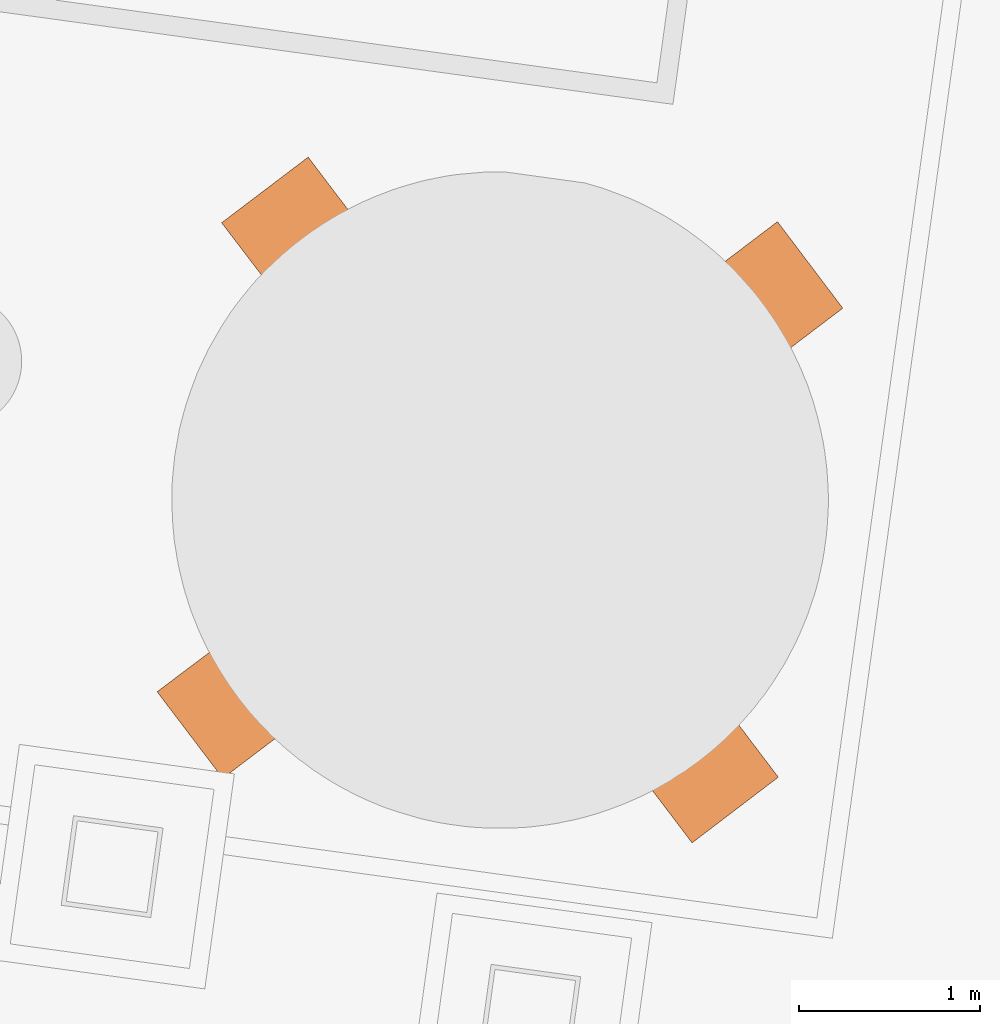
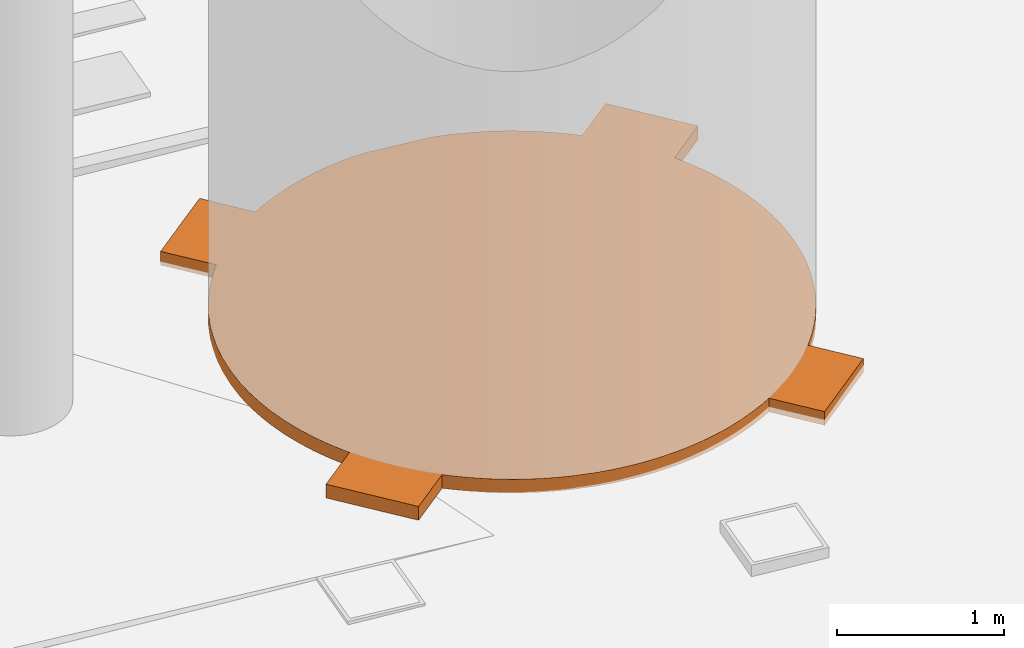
# Not in any storey, part 70 of 75: 1 proxy.
"""IFC4 model written with IfcOpenShell, lengths in metres."""

from ifc_helpers import new_model, si_unit, direction, origin, origin_with_axes, place, context, subcontext, project, spatial, triangles, element, save


model = new_model("IFC4")

# Units and contexts
model_context = context("Model", 3, precision=1e-05, world=origin_with_axes(), true_north=direction((0.0, 1.0)))
body_context = subcontext(model_context, "Body", "Model", "MODEL_VIEW")
ifc_project = project(units=[si_unit("AREAUNIT", "SQUARE_METRE"), si_unit("VOLUMEUNIT", "CUBIC_METRE"), si_unit("LENGTHUNIT", "METRE")], contexts=[model_context])

# Site
site_placement = place(None, origin_with_axes())
site = spatial("IfcSite", under=ifc_project, at=site_placement, Name="Parcela industrial Jinhong")

# Proxy
proxy_placement = place(None, origin())
element("IfcBuildingElementProxy", 1, at=proxy_placement, inside=site, Name="Plano fuente conservado · Adsorbedor PPU-B / MS1201", context=body_context, shape_type="Tessellation", body=[
    triangles([(55.635616, 57.20469, 1.2), (55.561628, 57.145458, 1.2), (55.597869, 57.176068, 1.2), (55.597869, 57.176068, 1.3), (55.561628, 57.145458, 1.3), (55.635616, 57.20469, 1.3), (55.712617, 57.259948, 1.2), (55.712617, 57.259948, 1.3), (55.673364, 57.233313, 1.2), (55.673364, 57.233313, 1.3), (55.490653, 57.082253, 1.2), (55.490653, 57.082253, 1.3), (55.792631, 57.311233, 1.2), (55.792631, 57.311233, 1.3), (55.751871, 57.286584, 1.2), (55.751871, 57.286584, 1.3), (55.875658, 57.358545, 1.2), (55.833392, 57.335882, 1.2), (55.833392, 57.335882, 1.3), (55.875658, 57.358545, 1.3), (56.600351, 57.568558, 1.2), (56.600351, 57.568558, 1.3), (56.092057, 57.456923, 1.2), (56.092057, 57.456923, 1.3), (56.003484, 57.421052, 1.2), (56.003484, 57.421052, 1.3), (55.917925, 57.381207, 1.2), (55.917925, 57.381207, 1.3), (55.959951, 57.402123, 1.2), (55.959951, 57.402123, 1.3), (56.047017, 57.439981, 1.2), (56.047017, 57.439981, 1.3), (56.181896, 57.489061, 1.2), (56.13535, 57.474106, 1.2), (56.13535, 57.474106, 1.3), (56.181896, 57.489061, 1.3), (56.226455, 57.502511, 1.2), (56.226455, 57.502511, 1.3), (56.551753, 57.564562, 1.2), (56.551753, 57.564562, 1.3), (56.364652, 57.536898, 1.2), (56.364652, 57.536898, 1.3), (56.272761, 57.51572, 1.2), (56.272761, 57.51572, 1.3), (56.318826, 57.527182, 1.2), (56.318826, 57.527182, 1.3), (56.412224, 57.546374, 1.2), (56.412224, 57.546374, 1.3), (56.504901, 57.560326, 1.2), (56.504901, 57.560326, 1.3), (56.457809, 57.554344, 1.2), (56.457809, 57.554344, 1.3), (56.695321, 57.573297, 1.2), (56.647203, 57.572794, 1.2), (56.647203, 57.572794, 1.3), (56.695321, 57.573297, 1.3), (57.21152, 57.509446, 1.2), (56.741692, 57.57404, 1.2), (56.750665, 57.574586, 1.2), (56.750665, 57.574586, 1.3), (56.741692, 57.57404, 1.3), (57.21152, 57.509446, 1.3), (57.203027, 57.512393, 1.2), (57.203027, 57.512393, 1.3), (57.347884, 57.465784, 1.2), (57.257717, 57.495976, 1.2), (57.302168, 57.482746, 1.2), (57.302168, 57.482746, 1.3), (57.257717, 57.495976, 1.3), (57.347884, 57.465784, 1.3), (57.391854, 57.449061, 1.2), (57.391854, 57.449061, 1.3), (55.165928, 56.674883, 1.2), (55.165928, 56.674883, 1.3), (54.919872, 55.674772, 1.2), (54.919872, 55.674772, 1.3), (57.71124, 54.232145, 1.2), (57.71124, 54.232145, 1.3), (58.08704, 56.965533, 1.2), (58.08704, 56.965533, 1.3), (57.807192, 57.221118, 1.2), (57.807192, 57.221118, 1.3), (57.564548, 57.37193, 1.2), (57.564548, 57.37193, 1.3), (57.435825, 57.432338, 1.2), (57.435825, 57.432338, 1.3), (57.479555, 57.413869, 1.2), (57.479555, 57.413869, 1.3), (57.523045, 57.393653, 1.2), (57.523045, 57.393653, 1.3), (57.649061, 57.326499, 1.2), (57.607797, 57.349968, 1.2), (57.607797, 57.349968, 1.3), (57.649061, 57.326499, 1.3), (57.690083, 57.301283, 1.2), (57.690083, 57.301283, 1.3), (57.768396, 57.249586, 1.2), (57.768396, 57.249586, 1.3), (57.72936, 57.276308, 1.2), (57.72936, 57.276308, 1.3), (57.989012, 57.06799, 1.2), (57.989012, 57.06799, 1.3), (57.882798, 57.162674, 1.2), (57.882798, 57.162674, 1.3), (57.845988, 57.192649, 1.2), (57.845988, 57.192649, 1.3), (57.95443, 57.101218, 1.2), (57.919607, 57.132699, 1.2), (57.919607, 57.132699, 1.3), (57.95443, 57.101218, 1.3), (58.056191, 57.000027, 1.2), (58.056191, 57.000027, 1.3), (58.023595, 57.034762, 1.2), (58.023595, 57.034762, 1.3), (58.412172, 56.443903, 1.2), (58.412172, 56.443903, 1.3), (58.374314, 56.530969, 1.2), (58.374314, 56.530969, 1.3), (58.285171, 56.698049, 1.2), (58.285171, 56.698049, 1.3), (58.233886, 56.778063, 1.2), (58.233886, 56.778063, 1.3), (58.178627, 56.855064, 1.2), (58.178627, 56.855064, 1.3), (58.119396, 56.929052, 1.2), (58.119396, 56.929052, 1.3), (58.150005, 56.892811, 1.2), (58.150005, 56.892811, 1.3), (58.20725, 56.817316, 1.2), (58.20725, 56.817316, 1.3), (58.260521, 56.738809, 1.2), (58.260521, 56.738809, 1.3), (58.353638, 56.574742, 1.2), (58.30982, 56.657288, 1.2), (58.30982, 56.657288, 1.3), (58.353638, 56.574742, 1.3), (58.332722, 56.616768, 1.2), (58.332722, 56.616768, 1.3), (58.394989, 56.487196, 1.2), (58.394989, 56.487196, 1.3), (58.446297, 56.35557, 1.2), (58.431101, 56.40037, 1.2), (58.431101, 56.40037, 1.3), (58.446297, 56.35557, 1.3), (58.474702, 56.264465, 1.2), (58.461492, 56.310771, 1.2), (58.461492, 56.310771, 1.3), (58.474702, 56.264465, 1.3), (58.529533, 55.51128, 1.2), (58.529533, 55.51128, 1.3), (58.509089, 56.126269, 1.2), (58.509089, 56.126269, 1.3), (58.487911, 56.21816, 1.2), (58.487911, 56.21816, 1.3), (58.499373, 56.172094, 1.2), (58.499373, 56.172094, 1.3), (58.526534, 56.033111, 1.2), (58.518805, 56.080443, 1.2), (58.518805, 56.080443, 1.3), (58.526534, 56.033111, 1.3), (58.532517, 55.986019, 1.2), (58.532517, 55.986019, 1.3), (58.543744, 55.653472, 1.2), (58.543744, 55.653472, 1.3), (58.544985, 55.843718, 1.2), (58.544985, 55.843718, 1.3), (58.542496, 55.890329, 1.2), (58.542496, 55.890329, 1.3), (58.5385, 55.938927, 1.2), (58.5385, 55.938927, 1.3), (58.547235, 55.79536, 1.2), (58.547235, 55.79536, 1.3), (58.546734, 55.70111, 1.2), (58.546734, 55.70111, 1.3), (58.547978, 55.748988, 1.2), (58.547978, 55.748988, 1.3), (58.540753, 55.605835, 1.2), (58.540753, 55.605835, 1.3), (58.536016, 55.558437, 1.2), (58.536016, 55.558437, 1.3), (57.791494, 54.285177, 1.2), (57.752, 54.256794, 1.2), (57.752, 54.256794, 1.3), (57.791494, 54.285177, 1.3), (57.631466, 54.182607, 1.2), (57.671986, 54.205509, 1.2), (57.671986, 54.205509, 1.3), (57.631466, 54.182607, 1.3), (57.546933, 54.137282, 1.2), (57.588959, 54.158198, 1.2), (57.588959, 54.158198, 1.3), (57.546933, 54.137282, 1.3), (57.461373, 54.097437, 1.2), (57.504906, 54.116366, 1.2), (57.504906, 54.116366, 1.3), (57.461373, 54.097437, 1.3), (57.372801, 54.061566, 1.2), (57.41784, 54.078508, 1.2), (57.41784, 54.078508, 1.3), (57.372801, 54.061566, 1.3), (56.769537, 53.945192, 1.2), (56.769537, 53.945192, 1.3), (57.098459, 53.981831, 1.2), (57.098459, 53.981831, 1.3), (57.238403, 54.015978, 1.2), (57.238403, 54.015978, 1.3), (57.327761, 54.044624, 1.2), (57.327761, 54.044624, 1.3), (57.282962, 54.029428, 1.2), (57.282962, 54.029428, 1.3), (57.192097, 54.002769, 1.2), (57.192097, 54.002769, 1.3), (57.146031, 53.991307, 1.2), (57.146031, 53.991307, 1.3), (57.005302, 53.964386, 1.2), (57.052634, 53.972115, 1.2), (57.052634, 53.972115, 1.3), (57.005302, 53.964386, 1.3), (56.95821, 53.958403, 1.2), (56.95821, 53.958403, 1.3), (56.815908, 53.945935, 1.2), (56.911118, 53.95242, 1.2), (56.911118, 53.95242, 1.3), (56.815908, 53.945935, 1.3), (56.864267, 53.948184, 1.2), (56.864267, 53.948184, 1.3), (56.20714, 54.022513, 1.2), (56.20714, 54.022513, 1.3), (56.721419, 53.944689, 1.2), (56.721419, 53.944689, 1.3), (56.485217, 53.961147, 1.2), (56.485217, 53.961147, 1.3), (56.62741, 53.946936, 1.2), (56.62741, 53.946936, 1.3), (56.673301, 53.944186, 1.2), (56.673301, 53.944186, 1.3), (56.579772, 53.949927, 1.2), (56.579772, 53.949927, 1.3), (56.532375, 53.954664, 1.2), (56.532375, 53.954664, 1.3), (56.251591, 54.009284, 1.2), (56.251591, 54.009284, 1.3), (56.344465, 53.985837, 1.2), (56.344465, 53.985837, 1.3), (56.391142, 53.975861, 1.2), (56.391142, 53.975861, 1.3), (56.43806, 53.967631, 1.2), (56.43806, 53.967631, 1.3), (56.297788, 53.995814, 1.2), (56.297788, 53.995814, 1.3), (56.116733, 54.050959, 1.2), (56.160943, 54.035983, 1.2), (56.160943, 54.035983, 1.3), (56.116733, 54.050959, 1.3), (56.027286, 54.086391, 1.2), (56.027286, 54.086391, 1.3), (56.071016, 54.067922, 1.2), (56.071016, 54.067922, 1.3), (55.941813, 54.124836, 1.2), (55.983556, 54.104861, 1.2), (55.983556, 54.104861, 1.3), (55.941813, 54.124836, 1.3), (55.898563, 54.146799, 1.2), (55.898563, 54.146799, 1.3), (55.657665, 54.297372, 1.2), (55.657665, 54.297372, 1.3), (55.774774, 54.217206, 1.2), (55.774774, 54.217206, 1.3), (55.815797, 54.19199, 1.2), (55.815797, 54.19199, 1.3), (55.85706, 54.168521, 1.2), (55.85706, 54.168521, 1.3), (55.735498, 54.242181, 1.2), (55.735498, 54.242181, 1.3), (55.694715, 54.269143, 1.2), (55.694715, 54.269143, 1.3), (55.58206, 54.355815, 1.2), (55.618869, 54.32584, 1.2), (55.618869, 54.32584, 1.3), (55.58206, 54.355815, 1.3), (55.510428, 54.417272, 1.2), (55.54525, 54.38579, 1.2), (55.54525, 54.38579, 1.3), (55.510428, 54.417272, 1.3), (55.441263, 54.483727, 1.2), (55.441263, 54.483727, 1.3), (55.475605, 54.448753, 1.2), (55.475605, 54.448753, 1.3), (55.376071, 54.553196, 1.2), (55.408427, 54.516715, 1.2), (55.408427, 54.516715, 1.3), (55.376071, 54.553196, 1.3), (55.314853, 54.625678, 1.2), (55.345222, 54.587691, 1.2), (55.345222, 54.587691, 1.3), (55.314853, 54.625678, 1.3), (55.257608, 54.701173, 1.2), (55.28599, 54.661679, 1.2), (55.28599, 54.661679, 1.3), (55.257608, 54.701173, 1.3), (55.204336, 54.77968, 1.2), (55.204336, 54.77968, 1.3), (55.230732, 54.73868, 1.2), (55.230732, 54.73868, 1.3), (55.003365, 55.207718, 1.2), (55.003365, 55.207718, 1.3), (55.155038, 54.861201, 1.2), (55.155038, 54.861201, 1.3), (55.179447, 54.818694, 1.2), (55.179447, 54.818694, 1.3), (55.050939, 55.074827, 1.2), (55.050939, 55.074827, 1.3), (55.088797, 54.987761, 1.2), (55.088797, 54.987761, 1.3), (55.132135, 54.901721, 1.2), (55.132135, 54.901721, 1.3), (55.109473, 54.943988, 1.2), (55.109473, 54.943988, 1.3), (55.069628, 55.029547, 1.2), (55.069628, 55.029547, 1.3), (55.033757, 55.118119, 1.2), (55.033757, 55.118119, 1.3), (55.016814, 55.163159, 1.2), (55.016814, 55.163159, 1.3), (54.976707, 55.298583, 1.2), (54.988409, 55.254264, 1.2), (54.988409, 55.254264, 1.3), (54.976707, 55.298583, 1.3), (54.965244, 55.344649, 1.2), (54.965244, 55.344649, 1.3), (54.946052, 55.438046, 1.2), (54.946052, 55.438046, 1.3), (54.954022, 55.392461, 1.2), (54.954022, 55.392461, 1.3), (54.938323, 55.485378, 1.2), (54.938323, 55.485378, 1.3), (54.926358, 55.579562, 1.2), (54.930594, 55.53271, 1.2), (54.930594, 55.53271, 1.3), (54.926358, 55.579562, 1.3), (54.922122, 55.626413, 1.2), (54.922122, 55.626413, 1.3), (54.91688, 55.769501, 1.2), (54.917383, 55.721383, 1.2), (54.917383, 55.721383, 1.3), (54.91688, 55.769501, 1.3), (54.918124, 55.817379, 1.2), (54.918124, 55.817379, 1.3), (54.923864, 55.910908, 1.2), (54.923864, 55.910908, 1.3), (54.919367, 55.865257, 1.2), (54.919367, 55.865257, 1.3), (54.928601, 55.958306, 1.2), (54.928601, 55.958306, 1.3), (54.941568, 56.05262, 1.2), (54.941568, 56.05262, 1.3), (54.933338, 56.005703, 1.2), (54.933338, 56.005703, 1.3), (55.00992, 56.329737, 1.2), (55.00992, 56.329737, 1.3), (54.949798, 56.099538, 1.2), (54.949798, 56.099538, 1.3), (54.969751, 56.192892, 1.2), (54.969751, 56.192892, 1.3), (54.958028, 56.146455, 1.2), (54.958028, 56.146455, 1.3), (54.994704, 56.28378, 1.2), (54.981474, 56.239329, 1.2), (54.981474, 56.239329, 1.3), (54.994704, 56.28378, 1.3), (55.142459, 56.63362, 1.2), (55.142459, 56.63362, 1.3), (55.078798, 56.507124, 1.2), (55.078798, 56.507124, 1.3), (55.024896, 56.373947, 1.2), (55.024896, 56.373947, 1.3), (55.041859, 56.419664, 1.2), (55.041859, 56.419664, 1.3), (55.058582, 56.463634, 1.2), (55.058582, 56.463634, 1.3), (55.099014, 56.550614, 1.2), (55.099014, 56.550614, 1.3), (55.11899, 56.592357, 1.2), (55.11899, 56.592357, 1.3), (55.216359, 56.756929, 1.2), (55.189397, 56.716146, 1.2), (55.189397, 56.716146, 1.3), (55.216359, 56.756929, 1.3), (55.269803, 56.835001, 1.2), (55.241334, 56.796205, 1.2), (55.241334, 56.796205, 1.3), (55.269803, 56.835001, 1.3), (55.298031, 56.872051, 1.2), (55.298031, 56.872051, 1.3), (55.328006, 56.90886, 1.2), (55.328006, 56.90886, 1.3), (55.42293, 57.016822, 1.2), (55.357981, 56.94567, 1.2), (55.357981, 56.94567, 1.3), (55.42293, 57.016822, 1.3), (55.389702, 56.982239, 1.2), (55.389702, 56.982239, 1.3), (55.455918, 57.049658, 1.2), (55.455918, 57.049658, 1.3), (55.525387, 57.114849, 1.2), (55.525387, 57.114849, 1.3), (57.866989, 54.342422, 1.2), (57.866989, 54.342422, 1.3), (57.93947, 54.40364, 1.2), (57.93947, 54.40364, 1.3), (58.10513, 54.57306, 1.2), (58.10513, 54.57306, 1.3), (58.16508, 54.646678, 1.2), (58.16508, 54.646678, 1.3), (58.273714, 54.802583, 1.2), (58.273714, 54.802583, 1.3), (58.344121, 54.926372, 1.2), (58.344121, 54.926372, 1.3), (58.404529, 55.055096, 1.2), (58.404529, 55.055096, 1.3), (58.505083, 55.372274, 1.2), (58.505083, 55.372274, 1.3), (58.523049, 55.464122, 1.2), (58.523049, 55.464122, 1.3), (58.514819, 55.417205, 1.2), (58.514819, 55.417205, 1.3), (58.454937, 55.188753, 1.2), (58.495106, 55.325597, 1.2), (58.495106, 55.325597, 1.3), (58.454937, 55.188753, 1.3), (58.483383, 55.27916, 1.2), (58.483383, 55.27916, 1.3), (58.469913, 55.232963, 1.2), (58.469913, 55.232963, 1.3), (58.422998, 55.098826, 1.2), (58.439721, 55.142796, 1.2), (58.439721, 55.142796, 1.3), (58.422998, 55.098826, 1.3), (58.386059, 55.011366, 1.2), (58.386059, 55.011366, 1.3), (58.365844, 54.967876, 1.2), (58.365844, 54.967876, 1.3), (58.322159, 54.883123, 1.2), (58.322159, 54.883123, 1.3), (58.29869, 54.84186, 1.2), (58.29869, 54.84186, 1.3), (58.221777, 54.722524, 1.2), (58.248499, 54.76156, 1.2), (58.248499, 54.76156, 1.3), (58.221777, 54.722524, 1.3), (58.195055, 54.683488, 1.2), (58.195055, 54.683488, 1.3), (58.136611, 54.607882, 1.2), (58.136611, 54.607882, 1.3), (58.008939, 54.468832, 1.2), (58.073409, 54.53649, 1.2), (58.073409, 54.53649, 1.3), (58.008939, 54.468832, 1.3), (58.041927, 54.501668, 1.2), (58.041927, 54.501668, 1.3), (57.973965, 54.434489, 1.2), (57.973965, 54.434489, 1.3), (57.902989, 54.371284, 1.2), (57.902989, 54.371284, 1.3), (57.829001, 54.312053, 1.2), (57.829001, 54.312053, 1.3)], [[1, 2, 3], [5, 6, 4], [7, 2, 1], [6, 5, 8], [7, 1, 9], [6, 8, 10], [2, 7, 11], [5, 12, 8], [13, 11, 7], [12, 14, 8], [13, 7, 15], [8, 14, 16], [18, 17, 13], [19, 14, 20], [17, 21, 13], [20, 14, 22], [21, 17, 23], [20, 22, 24], [23, 17, 25], [20, 24, 26], [25, 17, 27], [20, 26, 28], [29, 25, 27], [30, 28, 26], [23, 25, 31], [26, 24, 32], [34, 33, 23], [35, 24, 36], [33, 37, 23], [36, 24, 38], [37, 39, 23], [38, 24, 40], [39, 37, 41], [38, 40, 42], [41, 37, 43], [38, 42, 44], [45, 41, 43], [46, 44, 42], [47, 39, 41], [48, 42, 40], [49, 39, 47], [50, 48, 40], [49, 47, 51], [48, 50, 52], [21, 23, 39], [24, 22, 40], [21, 54, 53], [56, 55, 22], [58, 59, 57], [62, 60, 61], [59, 63, 57], [62, 64, 60], [65, 66, 67], [69, 70, 68], [71, 66, 65], [70, 69, 72], [71, 53, 66], [56, 72, 69], [21, 53, 71], [72, 56, 22], [73, 21, 71], [72, 22, 74], [73, 71, 75], [72, 74, 76], [75, 71, 77], [72, 76, 78], [71, 79, 77], [80, 72, 78], [79, 71, 81], [72, 80, 82], [81, 71, 83], [72, 82, 84], [83, 71, 85], [72, 84, 86], [87, 83, 85], [88, 86, 84], [89, 83, 87], [90, 88, 84], [92, 91, 83], [93, 84, 94], [91, 95, 83], [94, 84, 96], [81, 83, 95], [84, 82, 96], [97, 81, 95], [98, 96, 82], [97, 95, 99], [96, 98, 100], [101, 79, 81], [102, 82, 80], [101, 81, 103], [82, 102, 104], [103, 81, 105], [82, 104, 106], [108, 107, 103], [109, 104, 110], [101, 103, 107], [104, 102, 110], [111, 79, 101], [112, 102, 80], [111, 101, 113], [102, 112, 114], [115, 77, 79], [78, 116, 80], [115, 79, 117], [80, 116, 118], [117, 79, 119], [80, 118, 120], [119, 79, 121], [80, 120, 122], [121, 79, 123], [80, 122, 124], [123, 79, 125], [80, 124, 126], [127, 123, 125], [128, 126, 124], [129, 121, 123], [130, 124, 122], [119, 121, 131], [122, 120, 132], [134, 133, 119], [135, 120, 136], [137, 133, 134], [135, 136, 138], [117, 119, 133], [120, 118, 136], [139, 115, 117], [140, 118, 116], [142, 141, 115], [143, 116, 144], [146, 145, 141], [147, 144, 148], [145, 115, 141], [116, 148, 144], [145, 149, 115], [148, 116, 150], [149, 145, 151], [148, 150, 152], [151, 145, 153], [148, 152, 154], [155, 151, 153], [156, 154, 152], [158, 157, 151], [159, 152, 160], [157, 161, 151], [160, 152, 162], [149, 151, 161], [152, 150, 162], [163, 149, 161], [164, 162, 150], [163, 161, 165], [162, 164, 166], [165, 161, 167], [162, 166, 168], [167, 161, 169], [162, 168, 170], [171, 163, 165], [172, 166, 164], [173, 163, 171], [174, 172, 164], [173, 171, 175], [172, 174, 176], [149, 163, 177], [164, 150, 178], [179, 149, 177], [180, 178, 150], [77, 181, 182], [183, 184, 78], [186, 185, 77], [187, 78, 188], [190, 189, 185], [191, 188, 192], [194, 193, 189], [195, 192, 196], [198, 197, 193], [199, 196, 200], [197, 77, 193], [78, 200, 196], [197, 201, 77], [200, 78, 202], [201, 197, 203], [200, 202, 204], [203, 197, 205], [200, 204, 206], [205, 197, 207], [200, 206, 208], [209, 205, 207], [210, 208, 206], [211, 203, 205], [212, 206, 204], [213, 203, 211], [214, 212, 204], [216, 215, 203], [217, 204, 218], [215, 219, 203], [218, 204, 220], [222, 221, 219], [223, 220, 224], [225, 221, 222], [223, 224, 226], [201, 219, 221], [220, 202, 224], [219, 201, 203], [220, 204, 202], [201, 227, 77], [202, 78, 228], [227, 201, 229], [202, 228, 230], [231, 227, 229], [232, 230, 228], [231, 229, 233], [230, 232, 234], [233, 229, 235], [230, 234, 236], [237, 231, 233], [238, 234, 232], [239, 231, 237], [240, 238, 232], [241, 227, 231], [242, 232, 228], [241, 231, 243], [232, 242, 244], [243, 231, 245], [232, 244, 246], [245, 231, 247], [232, 246, 248], [241, 243, 249], [244, 242, 250], [252, 251, 227], [253, 228, 254], [251, 255, 227], [254, 228, 256], [255, 251, 257], [254, 256, 258], [260, 259, 255], [261, 256, 262], [259, 263, 255], [262, 256, 264], [263, 227, 255], [228, 264, 256], [263, 265, 227], [264, 228, 266], [265, 263, 267], [264, 266, 268], [267, 263, 269], [264, 268, 270], [269, 263, 271], [264, 270, 272], [273, 265, 267], [274, 268, 266], [275, 265, 273], [276, 274, 266], [278, 277, 265], [279, 266, 280], [282, 281, 277], [283, 280, 284], [281, 285, 277], [284, 280, 286], [285, 281, 287], [284, 286, 288], [290, 289, 285], [291, 286, 292], [294, 293, 289], [295, 292, 296], [298, 297, 293], [299, 296, 300], [297, 301, 293], [300, 296, 302], [301, 297, 303], [300, 302, 304], [301, 289, 293], [292, 302, 296], [301, 265, 289], [266, 302, 292], [301, 305, 265], [302, 266, 306], [305, 301, 307], [302, 306, 308], [307, 301, 309], [302, 308, 310], [311, 305, 307], [312, 308, 306], [311, 307, 313], [308, 312, 314], [313, 307, 315], [308, 314, 316], [317, 313, 315], [318, 316, 314], [319, 311, 313], [320, 314, 312], [321, 305, 311], [322, 312, 306], [323, 305, 321], [324, 322, 306], [326, 325, 305], [327, 306, 328], [325, 329, 305], [328, 306, 330], [329, 331, 305], [330, 306, 332], [331, 329, 333], [330, 332, 334], [331, 335, 305], [332, 306, 336], [338, 337, 335], [339, 336, 340], [75, 337, 341], [340, 76, 342], [344, 343, 75], [345, 76, 346], [343, 347, 75], [346, 76, 348], [347, 349, 75], [348, 76, 350], [349, 347, 351], [348, 350, 352], [349, 353, 75], [350, 76, 354], [353, 355, 75], [354, 76, 356], [355, 353, 357], [354, 356, 358], [355, 359, 75], [356, 76, 360], [359, 355, 361], [356, 360, 362], [363, 359, 361], [364, 362, 360], [363, 361, 365], [362, 364, 366], [368, 367, 363], [369, 364, 370], [359, 363, 367], [364, 360, 370], [73, 75, 359], [76, 74, 360], [371, 73, 359], [372, 360, 74], [371, 359, 373], [360, 372, 374], [373, 359, 375], [360, 374, 376], [377, 373, 375], [378, 376, 374], [379, 373, 377], [380, 378, 374], [371, 373, 381], [374, 372, 382], [383, 371, 381], [384, 382, 372], [386, 385, 73], [387, 74, 388], [390, 389, 385], [391, 388, 392], [389, 393, 385], [392, 388, 394], [393, 395, 385], [394, 388, 396], [398, 397, 395], [399, 396, 400], [401, 397, 398], [399, 400, 402], [397, 403, 395], [400, 396, 404], [11, 395, 403], [396, 12, 404], [2, 11, 405], [12, 5, 406], [395, 11, 73], [396, 74, 12], [11, 13, 73], [12, 74, 14], [73, 13, 21], [74, 22, 14], [385, 395, 73], [388, 74, 396], [337, 75, 335], [340, 336, 76], [335, 75, 305], [336, 306, 76], [265, 305, 75], [306, 266, 76], [265, 75, 77], [266, 78, 76], [227, 265, 77], [228, 78, 266], [277, 289, 265], [280, 266, 292], [285, 289, 277], [286, 280, 292], [189, 193, 77], [192, 78, 196], [185, 189, 77], [188, 78, 192], [77, 407, 181], [408, 78, 184], [77, 409, 407], [410, 78, 408], [77, 411, 409], [412, 78, 410], [77, 413, 411], [414, 78, 412], [413, 77, 115], [78, 414, 116], [149, 413, 115], [150, 116, 414], [413, 149, 415], [150, 414, 416], [415, 149, 417], [150, 416, 418], [417, 149, 419], [150, 418, 420], [419, 149, 421], [150, 420, 422], [421, 149, 423], [150, 422, 424], [425, 421, 423], [426, 424, 422], [428, 427, 421], [429, 422, 430], [431, 427, 428], [429, 430, 432], [433, 427, 431], [434, 432, 430], [436, 435, 427], [437, 430, 438], [419, 427, 435], [430, 420, 438], [427, 419, 421], [430, 422, 420], [439, 417, 419], [440, 420, 418], [441, 417, 439], [442, 440, 418], [415, 417, 443], [418, 416, 444], [445, 415, 443], [446, 444, 416], [448, 447, 415], [449, 416, 450], [413, 447, 451], [450, 414, 452], [411, 413, 453], [414, 412, 454], [456, 455, 411], [457, 412, 458], [459, 455, 456], [457, 458, 460], [409, 411, 455], [412, 410, 458], [461, 409, 455], [462, 458, 410], [447, 413, 415], [450, 416, 414], [463, 407, 409], [464, 410, 408], [465, 181, 407], [466, 408, 184], [57, 66, 53], [62, 56, 69], [57, 53, 58], [61, 56, 62], [61, 59, 58], [61, 60, 59], [56, 58, 53], [56, 61, 58], [53, 54, 55], [53, 55, 56], [22, 54, 21], [22, 55, 54], [21, 39, 40], [40, 22, 21], [39, 49, 50], [50, 40, 39], [49, 51, 52], [52, 50, 49], [48, 51, 47], [48, 52, 51], [42, 47, 41], [42, 48, 47], [41, 45, 46], [46, 42, 41], [44, 45, 43], [44, 46, 45], [38, 43, 37], [38, 44, 43], [36, 37, 33], [36, 38, 37], [33, 34, 35], [33, 35, 36], [24, 34, 23], [24, 35, 34], [23, 31, 32], [32, 24, 23], [26, 31, 25], [26, 32, 31], [25, 29, 30], [30, 26, 25], [28, 29, 27], [28, 30, 29], [20, 27, 17], [20, 28, 27], [17, 18, 19], [17, 19, 20], [14, 18, 13], [14, 19, 18], [13, 15, 16], [16, 14, 13], [8, 15, 7], [8, 16, 15], [7, 9, 10], [10, 8, 7], [6, 9, 1], [6, 10, 9], [1, 3, 4], [1, 4, 6], [5, 3, 2], [5, 4, 3], [2, 405, 406], [406, 5, 2], [12, 405, 11], [12, 406, 405], [11, 403, 404], [404, 12, 11], [400, 403, 397], [400, 404, 403], [402, 397, 401], [397, 402, 400], [401, 398, 399], [401, 399, 402], [398, 395, 396], [398, 396, 399], [395, 393, 394], [395, 394, 396], [393, 389, 392], [393, 392, 394], [391, 389, 390], [391, 392, 389], [390, 385, 388], [390, 388, 391], [387, 385, 386], [387, 388, 385], [386, 73, 74], [386, 74, 387], [372, 73, 371], [73, 372, 74], [384, 371, 383], [371, 384, 372], [383, 381, 382], [383, 382, 384], [381, 373, 374], [381, 374, 382], [380, 373, 379], [373, 380, 374], [379, 377, 378], [379, 378, 380], [377, 375, 376], [377, 376, 378], [375, 359, 360], [375, 360, 376], [370, 359, 367], [359, 370, 360], [369, 367, 368], [369, 370, 367], [368, 363, 364], [368, 364, 369], [366, 363, 365], [363, 366, 364], [365, 361, 362], [365, 362, 366], [361, 355, 356], [361, 356, 362], [358, 355, 357], [355, 358, 356], [357, 353, 354], [357, 354, 358], [353, 349, 350], [353, 350, 354], [352, 349, 351], [349, 352, 350], [351, 347, 348], [351, 348, 352], [347, 343, 346], [347, 346, 348], [345, 343, 344], [345, 346, 343], [344, 75, 76], [344, 76, 345], [342, 75, 341], [75, 342, 76], [341, 337, 340], [341, 340, 342], [339, 337, 338], [339, 340, 337], [338, 335, 336], [338, 336, 339], [335, 331, 332], [335, 332, 336], [334, 331, 333], [331, 334, 332], [333, 329, 330], [333, 330, 334], [329, 325, 328], [329, 328, 330], [327, 325, 326], [327, 328, 325], [326, 305, 306], [326, 306, 327], [324, 305, 323], [305, 324, 306], [323, 321, 322], [323, 322, 324], [321, 311, 312], [321, 312, 322], [320, 311, 319], [311, 320, 312], [319, 313, 314], [319, 314, 320], [318, 313, 317], [313, 318, 314], [317, 315, 316], [317, 316, 318], [315, 307, 308], [315, 308, 316], [310, 307, 309], [307, 310, 308], [309, 301, 302], [309, 302, 310], [304, 301, 303], [301, 304, 302], [303, 297, 300], [303, 300, 304], [299, 297, 298], [299, 300, 297], [298, 293, 296], [298, 296, 299], [295, 293, 294], [295, 296, 293], [294, 289, 292], [294, 292, 295], [291, 289, 290], [291, 292, 289], [290, 285, 286], [290, 286, 291], [288, 285, 287], [285, 288, 286], [284, 287, 281], [284, 288, 287], [281, 282, 283], [281, 283, 284], [280, 282, 277], [280, 283, 282], [277, 278, 279], [277, 279, 280], [266, 278, 265], [266, 279, 278], [265, 275, 276], [276, 266, 265], [274, 275, 273], [274, 276, 275], [268, 273, 267], [268, 274, 273], [267, 269, 270], [270, 268, 267], [269, 271, 272], [272, 270, 269], [264, 271, 263], [264, 272, 271], [262, 263, 259], [262, 264, 263], [259, 260, 261], [259, 261, 262], [256, 260, 255], [256, 261, 260], [255, 257, 258], [258, 256, 255], [254, 257, 251], [254, 258, 257], [251, 252, 253], [251, 253, 254], [228, 252, 227], [228, 253, 252], [227, 241, 242], [242, 228, 227], [241, 249, 250], [250, 242, 241], [244, 249, 243], [244, 250, 249], [243, 245, 246], [246, 244, 243], [245, 247, 248], [248, 246, 245], [232, 247, 231], [232, 248, 247], [231, 239, 240], [240, 232, 231], [238, 239, 237], [238, 240, 239], [234, 237, 233], [234, 238, 237], [233, 235, 236], [236, 234, 233], [230, 235, 229], [230, 236, 235], [202, 229, 201], [202, 230, 229], [201, 221, 224], [224, 202, 201], [221, 225, 226], [226, 224, 221], [223, 225, 222], [223, 226, 225], [220, 222, 219], [220, 223, 222], [218, 219, 215], [218, 220, 219], [215, 216, 217], [215, 217, 218], [204, 216, 203], [204, 217, 216], [203, 213, 214], [214, 204, 203], [212, 213, 211], [212, 214, 213], [206, 211, 205], [206, 212, 211], [205, 209, 210], [210, 206, 205], [208, 209, 207], [208, 210, 209], [200, 207, 197], [200, 208, 207], [197, 198, 199], [197, 199, 200], [196, 198, 193], [196, 199, 198], [193, 194, 195], [193, 195, 196], [192, 194, 189], [192, 195, 194], [189, 190, 191], [189, 191, 192], [188, 190, 185], [188, 191, 190], [185, 186, 187], [185, 187, 188], [78, 186, 77], [78, 187, 186], [77, 182, 183], [183, 78, 77], [184, 182, 181], [184, 183, 182], [181, 465, 466], [466, 184, 181], [408, 465, 407], [408, 466, 465], [407, 463, 464], [464, 408, 407], [410, 463, 409], [410, 464, 463], [409, 461, 462], [462, 410, 409], [458, 461, 455], [458, 462, 461], [455, 459, 460], [460, 458, 455], [459, 456, 457], [459, 457, 460], [456, 411, 412], [456, 412, 457], [454, 411, 453], [411, 454, 412], [453, 413, 414], [453, 414, 454], [452, 413, 451], [413, 452, 414], [451, 447, 450], [451, 450, 452], [449, 447, 448], [449, 450, 447], [448, 415, 416], [448, 416, 449], [446, 415, 445], [415, 446, 416], [445, 443, 444], [445, 444, 446], [443, 417, 418], [443, 418, 444], [442, 417, 441], [417, 442, 418], [441, 439, 440], [441, 440, 442], [439, 419, 420], [439, 420, 440], [438, 419, 435], [419, 438, 420], [437, 435, 436], [437, 438, 435], [436, 427, 430], [436, 430, 437], [434, 427, 433], [427, 434, 430], [433, 431, 432], [433, 432, 434], [431, 428, 429], [431, 429, 432], [428, 421, 422], [428, 422, 429], [426, 421, 425], [421, 426, 422], [425, 423, 424], [425, 424, 426], [423, 149, 150], [423, 150, 424], [180, 149, 179], [149, 180, 150], [179, 177, 178], [179, 178, 180], [177, 163, 164], [177, 164, 178], [174, 163, 173], [163, 174, 164], [176, 173, 175], [173, 176, 174], [175, 171, 172], [175, 172, 176], [171, 165, 166], [171, 166, 172], [168, 165, 167], [165, 168, 166], [170, 167, 169], [167, 170, 168], [169, 161, 162], [169, 162, 170], [161, 157, 160], [161, 160, 162], [159, 157, 158], [159, 160, 157], [158, 151, 152], [158, 152, 159], [156, 151, 155], [151, 156, 152], [155, 153, 154], [155, 154, 156], [153, 145, 148], [153, 148, 154], [147, 145, 146], [147, 148, 145], [146, 141, 144], [146, 144, 147], [143, 141, 142], [143, 144, 141], [142, 115, 116], [142, 116, 143], [140, 115, 139], [115, 140, 116], [139, 117, 118], [139, 118, 140], [136, 117, 133], [117, 136, 118], [138, 133, 137], [133, 138, 136], [137, 134, 135], [137, 135, 138], [134, 119, 120], [134, 120, 135], [132, 119, 131], [119, 132, 120], [131, 121, 122], [131, 122, 132], [130, 121, 129], [121, 130, 122], [129, 123, 124], [129, 124, 130], [128, 123, 127], [123, 128, 124], [127, 125, 126], [127, 126, 128], [125, 79, 80], [125, 80, 126], [112, 79, 111], [79, 112, 80], [114, 111, 113], [111, 114, 112], [102, 113, 101], [102, 114, 113], [101, 107, 110], [110, 102, 101], [107, 108, 109], [107, 109, 110], [104, 108, 103], [104, 109, 108], [103, 105, 106], [106, 104, 103], [82, 105, 81], [82, 106, 105], [81, 97, 98], [98, 82, 81], [97, 99, 100], [100, 98, 97], [96, 99, 95], [96, 100, 99], [94, 95, 91], [94, 96, 95], [91, 92, 93], [91, 93, 94], [84, 92, 83], [84, 93, 92], [83, 89, 90], [90, 84, 83], [88, 89, 87], [88, 90, 89], [86, 87, 85], [86, 88, 87], [72, 85, 71], [72, 86, 85], [70, 71, 65], [70, 72, 71], [65, 67, 68], [65, 68, 70], [69, 67, 66], [69, 68, 67], [62, 66, 57], [62, 69, 66], [57, 63, 64], [64, 62, 57], [60, 63, 59], [64, 63, 60]], closed=True),
    triangles([(58.271016, 54.226368, 1.2), (57.793967, 53.863074, 1.2), (57.575532, 54.151146, 1.2), (57.575532, 54.151146, 1.3), (57.793967, 53.863074, 1.3), (58.271016, 54.226368, 1.3), (58.052581, 54.51444, 1.2), (58.052581, 54.51444, 1.3)], [[3, 1, 2], [6, 4, 5], [1, 3, 7], [8, 4, 6], [1, 7, 6], [7, 8, 6], [2, 1, 5], [5, 1, 6], [2, 4, 3], [5, 4, 2], [7, 3, 8], [4, 8, 3]], closed=True),
    triangles([(55.125324, 54.916894, 1.2), (55.198559, 54.219905, 1.2), (54.835505, 54.6987, 1.2), (54.835505, 54.6987, 1.3), (55.198559, 54.219905, 1.3), (55.125324, 54.916894, 1.3), (55.48663, 54.438339, 1.2), (55.48663, 54.438339, 1.3)], [[3, 1, 2], [6, 4, 5], [1, 7, 2], [5, 8, 6], [5, 2, 7], [8, 5, 7], [2, 4, 3], [5, 4, 2], [6, 1, 3], [4, 6, 3], [1, 8, 7], [1, 6, 8]], closed=True),
    triangles([(58.627606, 56.82003, 1.2), (58.339534, 56.601595, 1.2), (57.978227, 57.08015, 1.2), (57.978227, 57.08015, 1.3), (58.339534, 56.601595, 1.3), (58.627606, 56.82003, 1.3), (58.266299, 57.298585, 1.2), (58.266299, 57.298585, 1.3)], [[3, 1, 2], [6, 4, 5], [1, 3, 7], [8, 4, 6], [7, 3, 8], [4, 8, 3], [1, 7, 6], [7, 8, 6], [2, 1, 5], [5, 1, 6], [2, 4, 3], [5, 4, 2]], closed=True),
    triangles([(55.67089, 57.655415, 1.2), (55.412277, 57.00405, 1.2), (55.192095, 57.292361, 1.2), (55.192095, 57.292361, 1.3), (55.412277, 57.00405, 1.3), (55.67089, 57.655415, 1.3), (55.889325, 57.367343, 1.2), (55.889325, 57.367343, 1.3)], [[3, 1, 2], [6, 4, 5], [1, 7, 2], [5, 8, 6], [2, 4, 3], [5, 4, 2], [6, 1, 3], [4, 6, 3], [1, 8, 7], [1, 6, 8], [5, 2, 7], [8, 5, 7]], closed=True),
])

save(model, "model.ifc")
